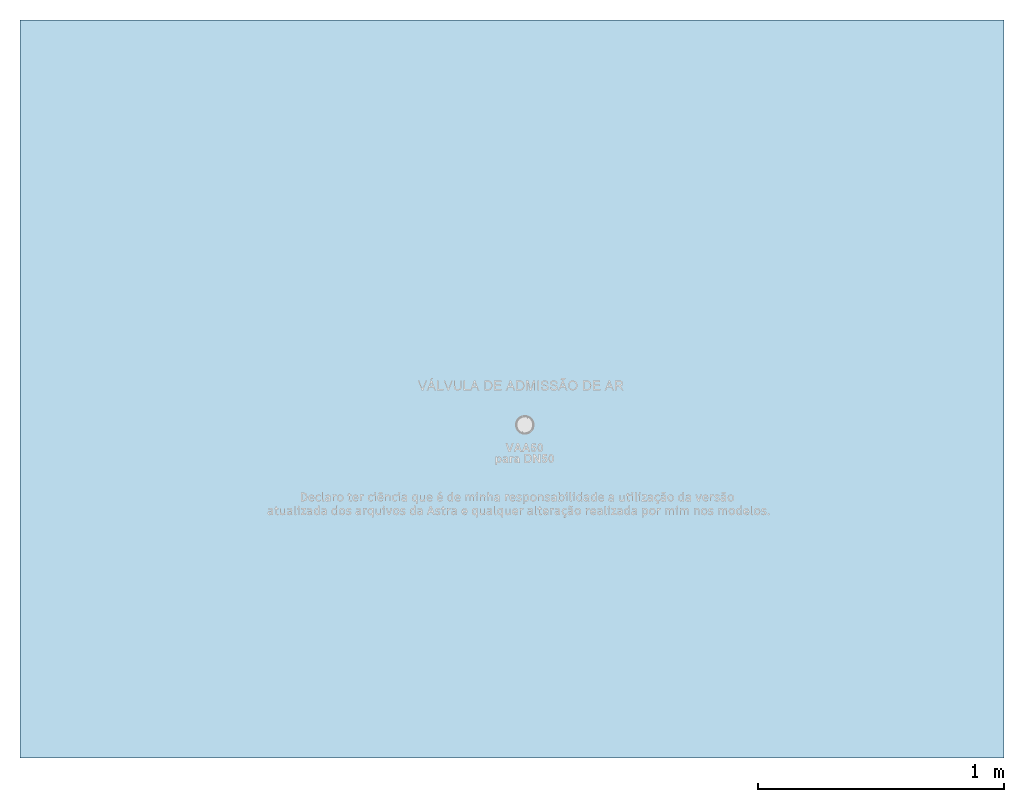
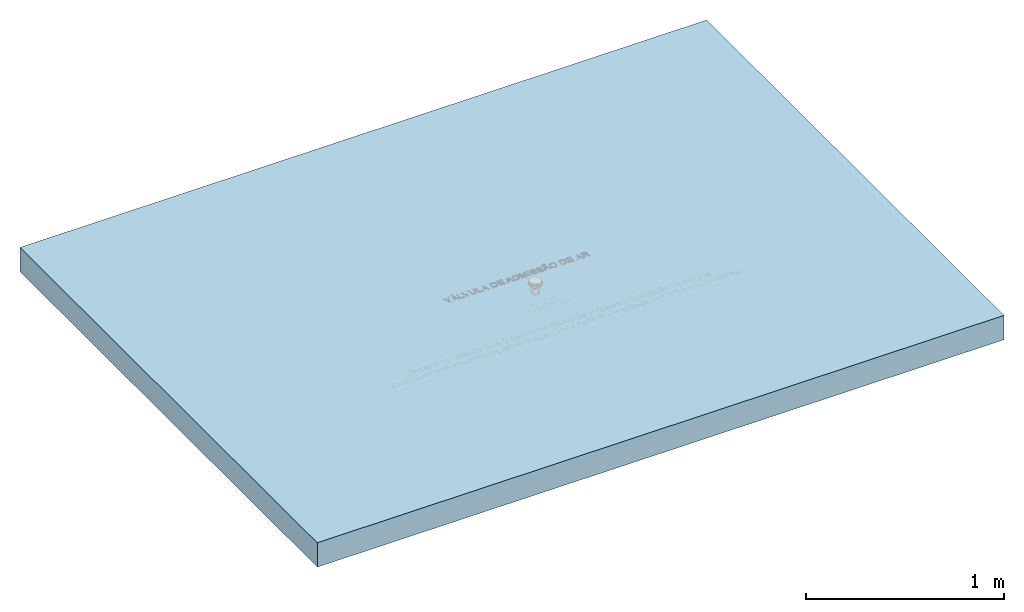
# One storey, part 1 of 2: 1 slab.
"""IFC2X3 building model written with IfcOpenShell, lengths in millimetres."""

from ifc_helpers import new_model, entity, si_unit, converted_unit, derived_unit, direction, frame, origin, origin_2d_with_axis, place, context, subcontext, project, spatial, rectangle, extrude, material, layer, layer_set, layer_usage, type_object, element, save


model = new_model("IFC2X3")

# Units and contexts
model_context = context("Model", 3, precision=0.01, world=origin(), true_north=direction((6.12303176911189e-17, 1.0)))
body_context = subcontext(model_context, "Body", "Model", "MODEL_VIEW")
ifc_project = project(units=[si_unit("LENGTHUNIT", "METRE", prefix="MILLI"), si_unit("AREAUNIT", "SQUARE_METRE"), si_unit("VOLUMEUNIT", "CUBIC_METRE"), converted_unit("PLANEANGLEUNIT", "DEGREE", entity("IfcRatioMeasure", 0.0174532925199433), si_unit("PLANEANGLEUNIT", "RADIAN"), dimensions=[0, 0, 0, 0, 0, 0, 0]), si_unit("MASSUNIT", "GRAM", prefix="KILO"), derived_unit("MASSDENSITYUNIT", [(si_unit("MASSUNIT", "GRAM", prefix="KILO"), 1), (si_unit("LENGTHUNIT", "METRE"), -3)]), derived_unit("MOMENTOFINERTIAUNIT", [(si_unit("LENGTHUNIT", "METRE"), 4)]), si_unit("TIMEUNIT", "SECOND"), si_unit("FREQUENCYUNIT", "HERTZ"), si_unit("THERMODYNAMICTEMPERATUREUNIT", "DEGREE_CELSIUS"), derived_unit("THERMALTRANSMITTANCEUNIT", [(si_unit("MASSUNIT", "GRAM", prefix="KILO"), 1), (si_unit("THERMODYNAMICTEMPERATUREUNIT", "KELVIN"), -1), (si_unit("TIMEUNIT", "SECOND"), -3)]), derived_unit("VOLUMETRICFLOWRATEUNIT", [(si_unit("LENGTHUNIT", "METRE"), 3), (si_unit("TIMEUNIT", "SECOND"), -1)]), si_unit("ELECTRICCURRENTUNIT", "AMPERE"), si_unit("ELECTRICVOLTAGEUNIT", "VOLT"), si_unit("POWERUNIT", "WATT"), si_unit("FORCEUNIT", "NEWTON", prefix="KILO"), si_unit("ILLUMINANCEUNIT", "LUX"), si_unit("LUMINOUSFLUXUNIT", "LUMEN"), si_unit("LUMINOUSINTENSITYUNIT", "CANDELA"), derived_unit("USERDEFINED", [(si_unit("MASSUNIT", "GRAM", prefix="KILO"), -1), (si_unit("LENGTHUNIT", "METRE"), -2), (si_unit("TIMEUNIT", "SECOND"), 3), (si_unit("LUMINOUSFLUXUNIT", "LUMEN"), 1)]), derived_unit("LINEARVELOCITYUNIT", [(si_unit("LENGTHUNIT", "METRE"), 1), (si_unit("TIMEUNIT", "SECOND"), -1)]), si_unit("PRESSUREUNIT", "PASCAL"), derived_unit("USERDEFINED", [(si_unit("LENGTHUNIT", "METRE"), -2), (si_unit("MASSUNIT", "GRAM", prefix="KILO"), 1), (si_unit("TIMEUNIT", "SECOND"), -2)]), derived_unit("LINEARFORCEUNIT", [(si_unit("MASSUNIT", "GRAM", prefix="KILO"), 1), (si_unit("LENGTHUNIT", "METRE"), 1), (si_unit("TIMEUNIT", "SECOND"), -2), (si_unit("LENGTHUNIT", "METRE"), -1)]), derived_unit("PLANARFORCEUNIT", [(si_unit("MASSUNIT", "GRAM", prefix="KILO"), 1), (si_unit("LENGTHUNIT", "METRE"), 1), (si_unit("TIMEUNIT", "SECOND"), -2), (si_unit("LENGTHUNIT", "METRE"), -2)])], contexts=[model_context])

# Site, building, storey
site_placement = place(None, origin())
site = spatial("IfcSite", under=ifc_project, at=site_placement, Name="Default", CompositionType="ELEMENT")
building_placement = place(site_placement, origin())
building = spatial("IfcBuilding", under=site, at=building_placement, CompositionType="ELEMENT")
storey_placement = place(building_placement, origin())
storey = spatial("IfcBuildingStorey", under=building, at=storey_placement, Name="Vista Principal", CompositionType="ELEMENT", Elevation=0.0)

# Slab
ifc_material = material(Name="Material pré-definido de piso")
ifc_layer = layer(ifc_material, 150.0)
ifc_layer_set = layer_set([ifc_layer], Name="Piso:Genérico 150 mm")
ifc_layer_usage = layer_usage(ifc_layer_set, "AXIS3", "POSITIVE", 0.0)
slab_type = type_object("IfcSlabType", Name="Piso:Genérico 150 mm", PredefinedType="FLOOR", material=ifc_layer_set)
slab_placement = place(storey_placement, origin())
element("IfcSlab", 1, at=slab_placement, inside=storey, type_object=slab_type, material=ifc_layer_usage, Name="Piso:Genérico 150 mm", ObjectType="Piso:Genérico 150 mm", PredefinedType="FLOOR", context=body_context, shape_type="SweptSolid", body=[
    extrude(rectangle(XDim=3000.0, YDim=4000.0, at=origin_2d_with_axis()), frame((116.787336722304, 593.375618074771, 0.0), z_axis=(0.0, 0.0, -1.0), x_axis=(0.0, 1.0, 0.0)), (0.0, 0.0, 1.0), 150.0),
])

save(model, "model.ifc")
